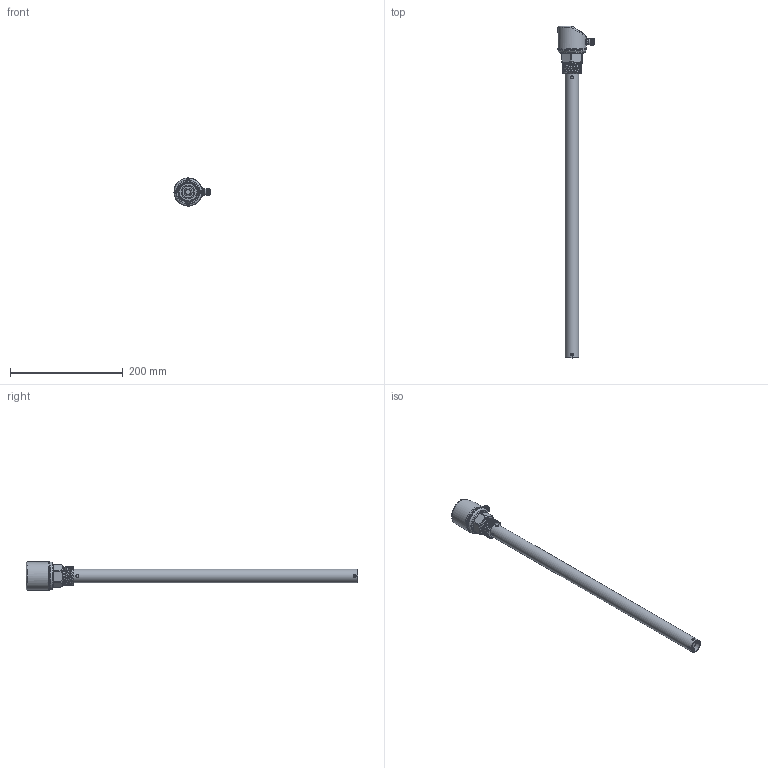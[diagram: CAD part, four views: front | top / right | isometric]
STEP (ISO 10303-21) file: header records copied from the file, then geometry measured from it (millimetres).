
FILE_DESCRIPTION (( 'STEP AP214' ), '1' );
FILE_NAME ('G1数显电容-500（同轴）.STEP', '2025-03-11T06:24:37', ( '' ), ( '' ), 'SwSTEP 2.0', 'SolidWorks 2020', '' );
FILE_SCHEMA (( 'AUTOMOTIVE_DESIGN' ));
Length unit declared in the file: millimetre
Products named in the file (9): 偌瑩簽; 滅阨諉芛褲极1; 肮粣奪; 揤薯珆尨欶; G1数显电容-500（同轴）; PVC躇猾菜; 抻芛ㄗ蟀哿講ㄘ; G1̽ͷ; 揤薯奻裔
Assembly tree (10 placements, depth 2):
  G1数显电容-500（同轴）
    揤薯奻裔
    揤薯珆尨欶
    滅阨諉芛褲极1
    偌瑩簽  x3
    PVC躇猾菜
    抻芛ㄗ蟀哿講ㄘ
    肮粣奪
    G1̽ͷ
Bounding box: 64 x 590.1 x 50 mm (x, y, z)
Volume: 141418.4 mm3; surface area: 121548.8 mm2
Topology: 10 solids, 10 shells, 321 faces, 759 edges, 491 vertices
Faces by surface type: plane 129, cylinder 118, cone 48, bspline 11, torus 11, sphere 4
Full cylindrical faces by diameter (mm): 1 x4, 1.2 x3, 1.8 x1, 2 x3, 2.5 x6, 2.8 x1, 4.3 x3, 4.5 x6, 5 x8, 6 x1, 7.2 x1, 8 x1, 8.5 x1, 9.75 x1, 10 x1, 10.49 x1, 10.5 x1, 10.8 x1, 10.9 x1, 11 x2, 12 x1, 21 x2, 24 x1, 30 x1, 35 x1, 35.5 x1, 42 x1, 43.9 x1, 45.4 x1, 45.6 x2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
Entity records: 13635 total; most frequent: CARTESIAN_POINT 6743, DIRECTION 1341, ORIENTED_EDGE 1134, EDGE_CURVE 567, AXIS2_PLACEMENT_3D 545, EDGE_LOOP 480, VERTEX_POINT 421, FACE_OUTER_BOUND 362
